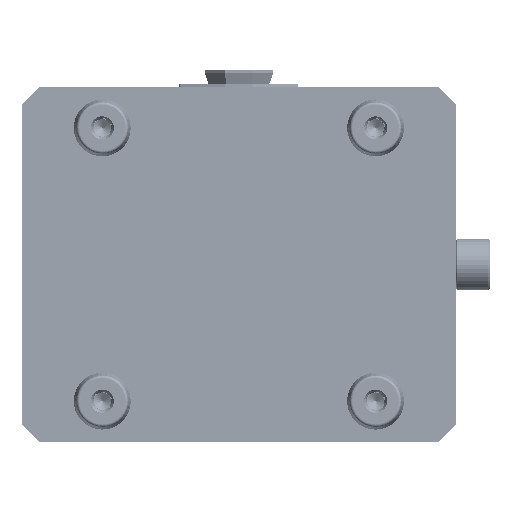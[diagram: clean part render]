
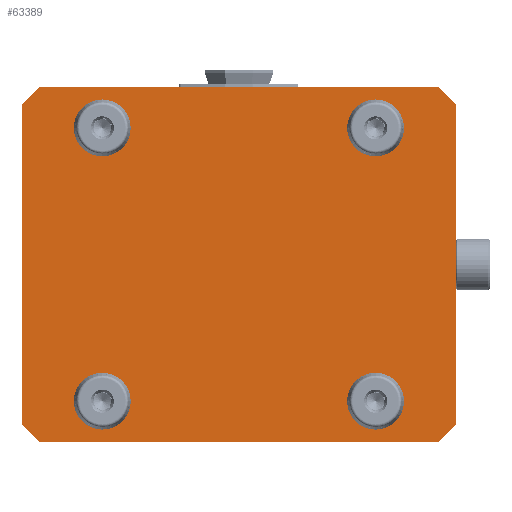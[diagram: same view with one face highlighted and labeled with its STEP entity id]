
A CAD part, front view. The second image highlights one B-rep face of the part: STEP entity #63389.
In plain terms, the highlighted planar face has unit normal (0, -1, 0).
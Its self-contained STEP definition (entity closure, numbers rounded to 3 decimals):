
#883 = EDGE_CURVE ( 'NONE', #71935, #20941, #12458, .T. ) ;
#994 = CARTESIAN_POINT ( 'NONE',  ( 48., -25., -56.01 ) ) ;
#1453 = EDGE_CURVE ( 'NONE', #20940, #26994, #67126, .T. ) ;
#2345 = CARTESIAN_POINT ( 'NONE',  ( 69.85, -25., 62.5 ) ) ;
#2412 = CIRCLE ( 'NONE', #18755, 8.01 ) ;
#3336 = DIRECTION ( 'NONE',  ( 0., -1., 0. ) ) ;
#4680 = VERTEX_POINT ( 'NONE', #45597 ) ;
#4942 = VECTOR ( 'NONE', #13438, 1000. ) ;
#6250 = ORIENTED_EDGE ( 'NONE', *, *, #56201, .F. ) ;
#6375 = DIRECTION ( 'NONE',  ( 0., 0., -1. ) ) ;
#6528 = EDGE_CURVE ( 'NONE', #4680, #45677, #9172, .T. ) ;
#6814 = VERTEX_POINT ( 'NONE', #14469 ) ;
#6996 = VECTOR ( 'NONE', #24611, 1000. ) ;
#7140 = ORIENTED_EDGE ( 'NONE', *, *, #1453, .F. ) ;
#8780 = VERTEX_POINT ( 'NONE', #54227 ) ;
#8887 = EDGE_LOOP ( 'NONE', ( #71059, #17365 ) ) ;
#8931 = CARTESIAN_POINT ( 'NONE',  ( 69.85, -25., 62.5 ) ) ;
#9009 = VECTOR ( 'NONE', #48716, 1000. ) ;
#9172 = CIRCLE ( 'NONE', #17396, 8.01 ) ;
#10125 = DIRECTION ( 'NONE',  ( 0.707, 0., -0.707 ) ) ;
#10541 = LINE ( 'NONE', #26625, #54534 ) ;
#10654 = CARTESIAN_POINT ( 'NONE',  ( 76.2, -25., -56.15 ) ) ;
#10800 = LINE ( 'NONE', #66738, #14936 ) ;
#11202 = AXIS2_PLACEMENT_3D ( 'NONE', #51311, #12931, #63325 ) ;
#12458 = CIRCLE ( 'NONE', #34615, 8.01 ) ;
#12615 = CARTESIAN_POINT ( 'NONE',  ( -69.85, -25., 62.5 ) ) ;
#12931 = DIRECTION ( 'NONE',  ( 0., -1., 0. ) ) ;
#13438 = DIRECTION ( 'NONE',  ( -1., 0., 0. ) ) ;
#13719 = ORIENTED_EDGE ( 'NONE', *, *, #6528, .F. ) ;
#13744 = CARTESIAN_POINT ( 'NONE',  ( -48., -25., 39.99 ) ) ;
#13837 = DIRECTION ( 'NONE',  ( 0., 0., -1. ) ) ;
#14020 = DIRECTION ( 'NONE',  ( 0., 0., -1. ) ) ;
#14448 = VERTEX_POINT ( 'NONE', #42815 ) ;
#14469 = CARTESIAN_POINT ( 'NONE',  ( 69.85, -25., -62.5 ) ) ;
#14936 = VECTOR ( 'NONE', #67091, 1000. ) ;
#15063 = EDGE_LOOP ( 'NONE', ( #31588, #42602 ) ) ;
#15218 = ORIENTED_EDGE ( 'NONE', *, *, #44925, .F. ) ;
#15442 = ORIENTED_EDGE ( 'NONE', *, *, #58913, .F. ) ;
#15753 = CARTESIAN_POINT ( 'NONE',  ( 48., -25., -48. ) ) ;
#15788 = LINE ( 'NONE', #10654, #43236 ) ;
#15913 = DIRECTION ( 'NONE',  ( 0., 0., -1. ) ) ;
#17365 = ORIENTED_EDGE ( 'NONE', *, *, #39419, .F. ) ;
#17396 = AXIS2_PLACEMENT_3D ( 'NONE', #15753, #19766, #64335 ) ;
#18755 = AXIS2_PLACEMENT_3D ( 'NONE', #37080, #54277, #15913 ) ;
#19120 = EDGE_CURVE ( 'NONE', #19512, #25063, #59003, .T. ) ;
#19512 = VERTEX_POINT ( 'NONE', #57128 ) ;
#19766 = DIRECTION ( 'NONE',  ( 0., -1., 0. ) ) ;
#19782 = EDGE_CURVE ( 'NONE', #33806, #41435, #46099, .T. ) ;
#20892 = DIRECTION ( 'NONE',  ( 0., 0., -1. ) ) ;
#20940 = VERTEX_POINT ( 'NONE', #8931 ) ;
#20941 = VERTEX_POINT ( 'NONE', #36667 ) ;
#21215 = ORIENTED_EDGE ( 'NONE', *, *, #29797, .F. ) ;
#21812 = VECTOR ( 'NONE', #10125, 1000. ) ;
#22982 = EDGE_CURVE ( 'NONE', #30220, #19512, #10541, .T. ) ;
#24248 = DIRECTION ( 'NONE',  ( 0., -1., 0. ) ) ;
#24561 = VERTEX_POINT ( 'NONE', #61681 ) ;
#24608 = FACE_BOUND ( 'NONE', #61193, .T. ) ;
#24611 = DIRECTION ( 'NONE',  ( 1., 0., 0. ) ) ;
#25063 = VERTEX_POINT ( 'NONE', #12615 ) ;
#25139 = CARTESIAN_POINT ( 'NONE',  ( -48., -25., -39.99 ) ) ;
#25460 = DIRECTION ( 'NONE',  ( 0., -1., 0. ) ) ;
#25614 = DIRECTION ( 'NONE',  ( 0., 0., -1. ) ) ;
#26312 = CIRCLE ( 'NONE', #11202, 8.01 ) ;
#26396 = VECTOR ( 'NONE', #52444, 1000. ) ;
#26625 = CARTESIAN_POINT ( 'NONE',  ( -76.2, -25., 56.15 ) ) ;
#26994 = VERTEX_POINT ( 'NONE', #54430 ) ;
#27331 = EDGE_CURVE ( 'NONE', #41435, #33806, #64028, .T. ) ;
#28387 = CARTESIAN_POINT ( 'NONE',  ( 76.2, -25., 56.15 ) ) ;
#29743 = CARTESIAN_POINT ( 'NONE',  ( 76.2, -25., -56.15 ) ) ;
#29761 = FACE_BOUND ( 'NONE', #15063, .T. ) ;
#29797 = EDGE_CURVE ( 'NONE', #26994, #64966, #15788, .T. ) ;
#30220 = VERTEX_POINT ( 'NONE', #42962 ) ;
#30615 = EDGE_CURVE ( 'NONE', #25063, #20940, #52408, .T. ) ;
#31588 = ORIENTED_EDGE ( 'NONE', *, *, #27331, .F. ) ;
#33424 = EDGE_CURVE ( 'NONE', #8780, #24561, #69646, .T. ) ;
#33764 = EDGE_LOOP ( 'NONE', ( #65813, #15442, #63262, #21215, #7140, #63831, #50584, #53140 ) ) ;
#33806 = VERTEX_POINT ( 'NONE', #25139 ) ;
#34146 = DIRECTION ( 'NONE',  ( 0., -1., 0. ) ) ;
#34615 = AXIS2_PLACEMENT_3D ( 'NONE', #38900, #34146, #6375 ) ;
#34808 = CARTESIAN_POINT ( 'NONE',  ( -48., -25., -56.01 ) ) ;
#35863 = EDGE_CURVE ( 'NONE', #14448, #30220, #10800, .T. ) ;
#36637 = FACE_BOUND ( 'NONE', #8887, .T. ) ;
#36667 = CARTESIAN_POINT ( 'NONE',  ( -48., -25., 56.01 ) ) ;
#37080 = CARTESIAN_POINT ( 'NONE',  ( 48., -25., -48. ) ) ;
#37498 = CIRCLE ( 'NONE', #56337, 8.01 ) ;
#38500 = CARTESIAN_POINT ( 'NONE',  ( 69.85, -25., -62.5 ) ) ;
#38900 = CARTESIAN_POINT ( 'NONE',  ( -48., -25., 48. ) ) ;
#39419 = EDGE_CURVE ( 'NONE', #24561, #8780, #37498, .T. ) ;
#39972 = AXIS2_PLACEMENT_3D ( 'NONE', #52760, #24248, #14020 ) ;
#41435 = VERTEX_POINT ( 'NONE', #34808 ) ;
#42318 = DIRECTION ( 'NONE',  ( 0., -1., 0. ) ) ;
#42602 = ORIENTED_EDGE ( 'NONE', *, *, #19782, .F. ) ;
#42815 = CARTESIAN_POINT ( 'NONE',  ( -69.85, -25., -62.5 ) ) ;
#42962 = CARTESIAN_POINT ( 'NONE',  ( -76.2, -25., -56.15 ) ) ;
#43236 = VECTOR ( 'NONE', #20892, 1000. ) ;
#44925 = EDGE_CURVE ( 'NONE', #20941, #71935, #26312, .T. ) ;
#45597 = CARTESIAN_POINT ( 'NONE',  ( 48., -25., -39.99 ) ) ;
#45677 = VERTEX_POINT ( 'NONE', #994 ) ;
#46099 = CIRCLE ( 'NONE', #56634, 8.01 ) ;
#46699 = LINE ( 'NONE', #68298, #4942 ) ;
#47504 = EDGE_CURVE ( 'NONE', #64966, #6814, #60068, .T. ) ;
#47805 = CARTESIAN_POINT ( 'NONE',  ( -48., -25., -48. ) ) ;
#48519 = EDGE_LOOP ( 'NONE', ( #6250, #13719 ) ) ;
#48716 = DIRECTION ( 'NONE',  ( -0.707, 0., -0.707 ) ) ;
#48887 = DIRECTION ( 'NONE',  ( 0., 0., 1. ) ) ;
#49839 = AXIS2_PLACEMENT_3D ( 'NONE', #58871, #3336, #25614 ) ;
#50584 = ORIENTED_EDGE ( 'NONE', *, *, #19120, .F. ) ;
#51220 = AXIS2_PLACEMENT_3D ( 'NONE', #57287, #25460, #68269 ) ;
#51311 = CARTESIAN_POINT ( 'NONE',  ( -48., -25., 48. ) ) ;
#52021 = PLANE ( 'NONE',  #39972 ) ;
#52408 = LINE ( 'NONE', #2345, #6996 ) ;
#52444 = DIRECTION ( 'NONE',  ( 0.707, 0., 0.707 ) ) ;
#52760 = CARTESIAN_POINT ( 'NONE',  ( 0., -25., 0. ) ) ;
#53140 = ORIENTED_EDGE ( 'NONE', *, *, #22982, .F. ) ;
#53484 = DIRECTION ( 'NONE',  ( 0., -1., 0. ) ) ;
#54227 = CARTESIAN_POINT ( 'NONE',  ( 48., -25., 39.99 ) ) ;
#54277 = DIRECTION ( 'NONE',  ( 0., -1., 0. ) ) ;
#54430 = CARTESIAN_POINT ( 'NONE',  ( 76.2, -25., 56.15 ) ) ;
#54534 = VECTOR ( 'NONE', #48887, 1000. ) ;
#56201 = EDGE_CURVE ( 'NONE', #45677, #4680, #2412, .T. ) ;
#56337 = AXIS2_PLACEMENT_3D ( 'NONE', #70299, #53484, #59695 ) ;
#56634 = AXIS2_PLACEMENT_3D ( 'NONE', #47805, #42318, #13837 ) ;
#57128 = CARTESIAN_POINT ( 'NONE',  ( -76.2, -25., 56.15 ) ) ;
#57287 = CARTESIAN_POINT ( 'NONE',  ( -48., -25., -48. ) ) ;
#57512 = FACE_OUTER_BOUND ( 'NONE', #33764, .T. ) ;
#58135 = ORIENTED_EDGE ( 'NONE', *, *, #883, .F. ) ;
#58871 = CARTESIAN_POINT ( 'NONE',  ( 48., -25., 48. ) ) ;
#58913 = EDGE_CURVE ( 'NONE', #6814, #14448, #46699, .T. ) ;
#59003 = LINE ( 'NONE', #69994, #26396 ) ;
#59695 = DIRECTION ( 'NONE',  ( 0., 0., -1. ) ) ;
#60068 = LINE ( 'NONE', #38500, #9009 ) ;
#61193 = EDGE_LOOP ( 'NONE', ( #58135, #15218 ) ) ;
#61681 = CARTESIAN_POINT ( 'NONE',  ( 48., -25., 56.01 ) ) ;
#63262 = ORIENTED_EDGE ( 'NONE', *, *, #47504, .F. ) ;
#63325 = DIRECTION ( 'NONE',  ( 0., 0., -1. ) ) ;
#63389 = ADVANCED_FACE ( 'NONE', ( #29761, #36637, #64430, #24608, #57512 ), #52021, .T. ) ;
#63831 = ORIENTED_EDGE ( 'NONE', *, *, #30615, .F. ) ;
#64028 = CIRCLE ( 'NONE', #51220, 8.01 ) ;
#64335 = DIRECTION ( 'NONE',  ( 0., 0., -1. ) ) ;
#64430 = FACE_BOUND ( 'NONE', #48519, .T. ) ;
#64966 = VERTEX_POINT ( 'NONE', #29743 ) ;
#65813 = ORIENTED_EDGE ( 'NONE', *, *, #35863, .F. ) ;
#66738 = CARTESIAN_POINT ( 'NONE',  ( -76.2, -25., -56.15 ) ) ;
#67091 = DIRECTION ( 'NONE',  ( -0.707, 0., 0.707 ) ) ;
#67126 = LINE ( 'NONE', #28387, #21812 ) ;
#68269 = DIRECTION ( 'NONE',  ( 0., 0., -1. ) ) ;
#68298 = CARTESIAN_POINT ( 'NONE',  ( -69.85, -25., -62.5 ) ) ;
#69646 = CIRCLE ( 'NONE', #49839, 8.01 ) ;
#69994 = CARTESIAN_POINT ( 'NONE',  ( -69.85, -25., 62.5 ) ) ;
#70299 = CARTESIAN_POINT ( 'NONE',  ( 48., -25., 48. ) ) ;
#71059 = ORIENTED_EDGE ( 'NONE', *, *, #33424, .F. ) ;
#71935 = VERTEX_POINT ( 'NONE', #13744 ) ;
